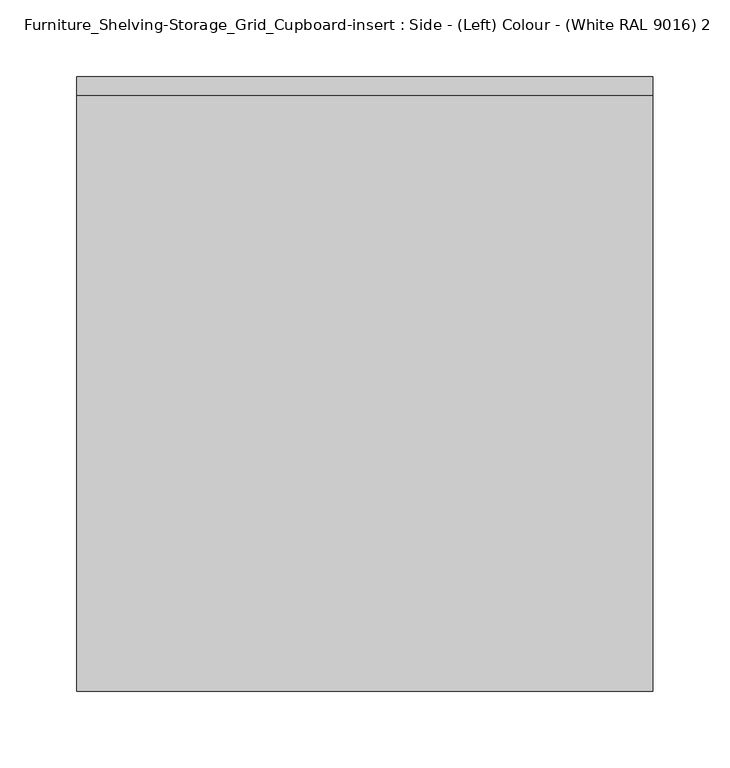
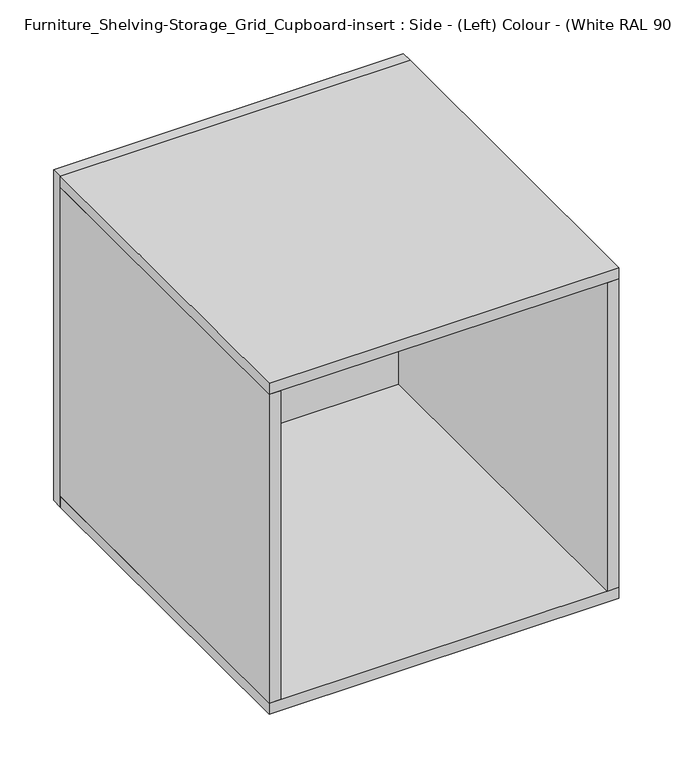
"""IFC4 building model written with IfcOpenShell, lengths in millimetres: furniture geometry, Furniture_Shelving-Storage_Grid_Cupboard-insert : Side - (Left) Colour - (White RAL 9016) 2."""

from ifc_helpers import new_model, si_unit, frame, origin, place, context, project, spatial, polyline, outline, extrude, source, transform, mapped, element, save


def furniture_shelving_storage_grid_cupboard_insert_side_left_8271136d(model_context):
    return source(origin(), model_context, "Body", "SweptSolid", [
        extrude(outline(polyline([(188.0003625, -185.4994641), (-187.9996375, -185.4994641), (-187.9996375, 203.0005359), (188.0003625, 203.0005359), (188.0003625, -185.4994641)])), frame((0.0, 0.0, 375.9997903), z_axis=(0.0, 0.0, 1.0), x_axis=(1.0, 0.0, 0.0)), (0.0, 0.0, 1.0), 12.5),
        extrude(outline(polyline([(-187.9996375, -185.4994641), (-187.9996375, 203.0005359), (-175.4996375, 203.0005359), (-175.4996375, -185.4994641), (-187.9996375, -185.4994641)])), frame((0.0, 0.0, 24.9997903), z_axis=(0.0, 0.0, 1.0), x_axis=(1.0, 0.0, 0.0)), (0.0, 0.0, 1.0), 351.0),
        extrude(outline(polyline([(175.5003625, -185.4994641), (175.5003625, 203.0005359), (188.0003625, 203.0005359), (188.0003625, -185.4994641), (175.5003625, -185.4994641)])), frame((0.0, 0.0, 24.9997903), z_axis=(0.0, 0.0, 1.0), x_axis=(1.0, 0.0, 0.0)), (0.0, 0.0, 1.0), 351.0),
        extrude(outline(polyline([(188.0003625, 203.0005359), (-187.9996375, 203.0005359), (-187.9996375, 215.5005359), (188.0003625, 215.5005359), (188.0003625, 203.0005359)])), frame((0.0, 0.0, 12.4997903), z_axis=(0.0, 0.0, 1.0), x_axis=(1.0, 0.0, 0.0)), (0.0, 0.0, 1.0), 376.0),
        extrude(outline(polyline([(188.0003625, -185.4994641), (-187.9996375, -185.4994641), (-187.9996375, 203.0005359), (188.0003625, 203.0005359), (188.0003625, -185.4994641)])), frame((0.0, 0.0, 12.4997903), z_axis=(0.0, 0.0, 1.0), x_axis=(1.0, 0.0, 0.0)), (0.0, 0.0, 1.0), 12.5),
    ])


if __name__ == "__main__":
    model = new_model("IFC4")
    model_context = context("Model", 3, world=origin())
    ifc_project = project(units=[si_unit("LENGTHUNIT", "METRE", prefix="MILLI")], contexts=[model_context])
    site = spatial("IfcSite", under=ifc_project)
    building = spatial("IfcBuilding", under=site)
    placement = place(None, origin())
    furniture_shelving_storage_grid_cupboard_insert_side_left_shape = furniture_shelving_storage_grid_cupboard_insert_side_left_8271136d(model_context)
    element("IfcFurniture", 1, ObjectType="Furniture_Shelving-Storage_Grid_Cupboard-insert : Side - (Left) Colour - (White RAL 9016) 2", at=placement, inside=building, context=model_context, shape_type="MappedRepresentation", body=[
        mapped(furniture_shelving_storage_grid_cupboard_insert_side_left_shape, transform((0.0, 0.0, 0.0), x_axis=(1.0, 0.0, 0.0), y_axis=(0.0, 1.0, 0.0), z_axis=(0.0, 0.0, 1.0))),
    ])
    save(model, "model.ifc")
